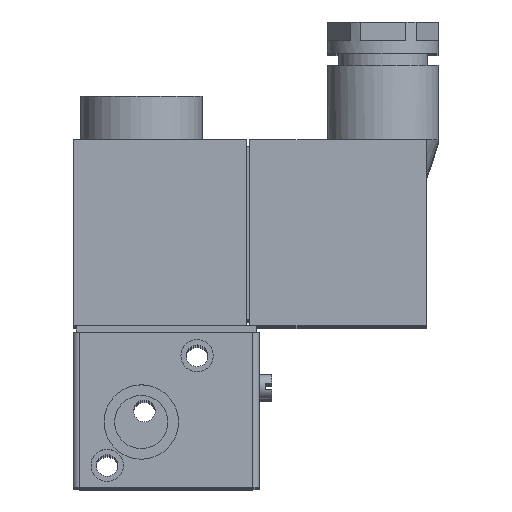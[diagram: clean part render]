
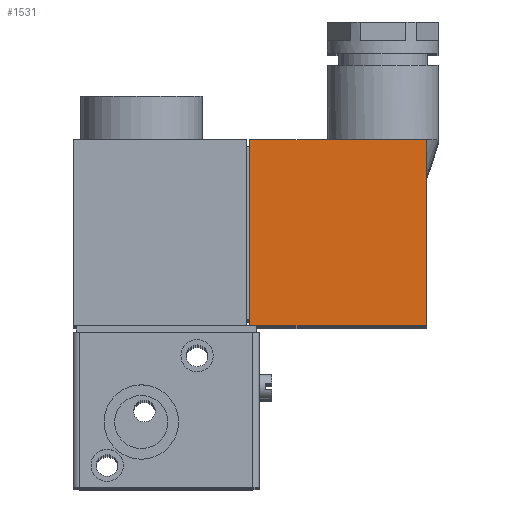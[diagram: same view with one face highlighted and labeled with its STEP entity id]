
A CAD part, top view. The second image highlights one B-rep face of the part: STEP entity #1531.
In plain terms, the highlighted planar face has unit normal (0, 0, 1).
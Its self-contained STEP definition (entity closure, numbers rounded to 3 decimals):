
#235=FACE_OUTER_BOUND('',#348,.T.);
#348=EDGE_LOOP('',(#1290,#1291,#1292,#1293));
#434=LINE('',#2556,#555);
#464=LINE('',#2620,#585);
#466=LINE('',#2626,#587);
#467=LINE('',#2628,#588);
#555=VECTOR('',#2082,1000.);
#585=VECTOR('',#2136,1000.);
#587=VECTOR('',#2144,1000.);
#588=VECTOR('',#2147,1000.);
#764=VERTEX_POINT('',#2553);
#765=VERTEX_POINT('',#2555);
#785=VERTEX_POINT('',#2614);
#787=VERTEX_POINT('',#2618);
#928=EDGE_CURVE('',#764,#765,#434,.T.);
#959=EDGE_CURVE('',#785,#787,#464,.T.);
#963=EDGE_CURVE('',#764,#785,#466,.T.);
#964=EDGE_CURVE('',#765,#787,#467,.T.);
#1290=ORIENTED_EDGE('',*,*,#959,.T.);
#1291=ORIENTED_EDGE('',*,*,#964,.F.);
#1292=ORIENTED_EDGE('',*,*,#928,.F.);
#1293=ORIENTED_EDGE('',*,*,#963,.T.);
#1447=PLANE('',#1746);
#1531=ADVANCED_FACE('',(#235),#1447,.F.);
#1746=AXIS2_PLACEMENT_3D('',#2627,#2145,#2146);
#2082=DIRECTION('',(0.,-1.,0.));
#2136=DIRECTION('',(0.,-1.,0.));
#2144=DIRECTION('',(-1.,0.,0.));
#2145=DIRECTION('center_axis',(0.,0.,-1.));
#2146=DIRECTION('ref_axis',(-1.,0.,0.));
#2147=DIRECTION('',(-1.,0.,0.));
#2553=CARTESIAN_POINT('',(57.,30.,22.));
#2555=CARTESIAN_POINT('',(57.,0.,22.));
#2556=CARTESIAN_POINT('',(57.,30.,22.));
#2614=CARTESIAN_POINT('',(28.5,30.,22.));
#2618=CARTESIAN_POINT('',(28.5,0.,22.));
#2620=CARTESIAN_POINT('',(28.5,30.,22.));
#2626=CARTESIAN_POINT('',(57.,30.,22.));
#2627=CARTESIAN_POINT('Origin',(57.,30.,22.));
#2628=CARTESIAN_POINT('',(57.,0.,22.));
